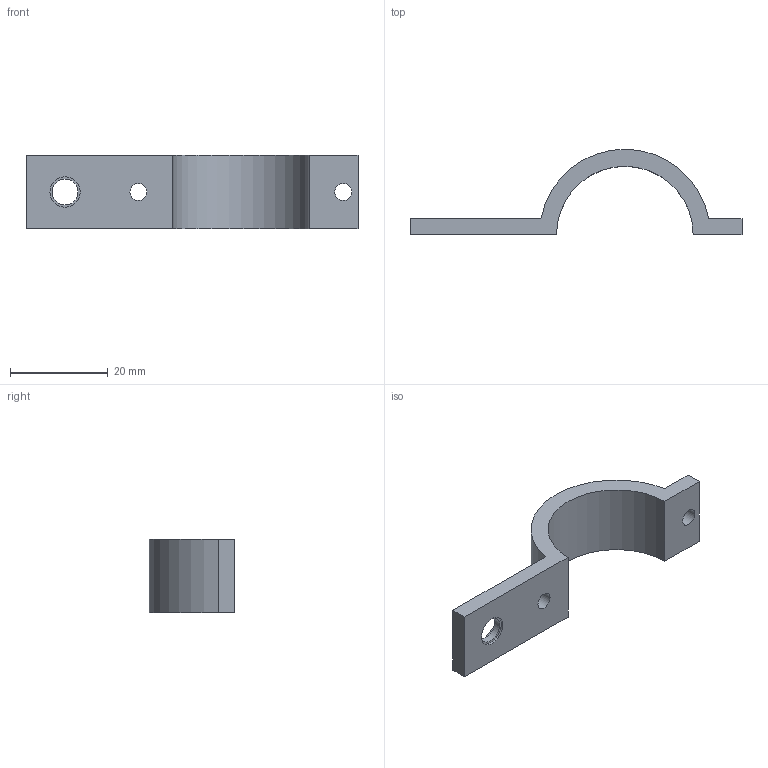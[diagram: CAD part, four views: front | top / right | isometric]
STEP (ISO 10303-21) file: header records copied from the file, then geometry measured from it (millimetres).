
FILE_DESCRIPTION(/* description */ (''),/* implementation_level */ '2;1');
FILE_NAME(/* name */ 'C:/Users/you/Desktop/自転車リフレクタ支え（Logn) v1.step',/* time_stamp */ '2018-11-24T17:19:13+09:00',/* author */ ('yoshimura12345'),/* organization */ (''),/* preprocessor_version */ 'ST-DEVELOPER v17.2',/* originating_system */ 'Autodesk Translation Framework v7.6.0.251',/* authorisation */ '');
FILE_SCHEMA (('AUTOMOTIVE_DESIGN { 1 0 10303 214 3 1 1 }'));
Length unit declared in the file: millimetre
Products named in the file (1): 自転車リフレクタ支え（Logn
)
Bounding box: 68 x 17.5 x 15 mm (x, y, z)
Volume: 4068.8 mm3; surface area: 3223.8 mm2
Topology: 1 solids, 1 shells, 22 faces, 55 edges, 37 vertices
Faces by surface type: plane 16, cylinder 6
Full cylindrical faces by diameter (mm): 3.5 x2, 5.3 x1, 6.195 x1
Entity records: 705 total; most frequent: CARTESIAN_POINT 115, DIRECTION 114, ORIENTED_EDGE 110, EDGE_CURVE 55, LINE 42, VECTOR 42, VERTEX_POINT 37, AXIS2_PLACEMENT_3D 36
